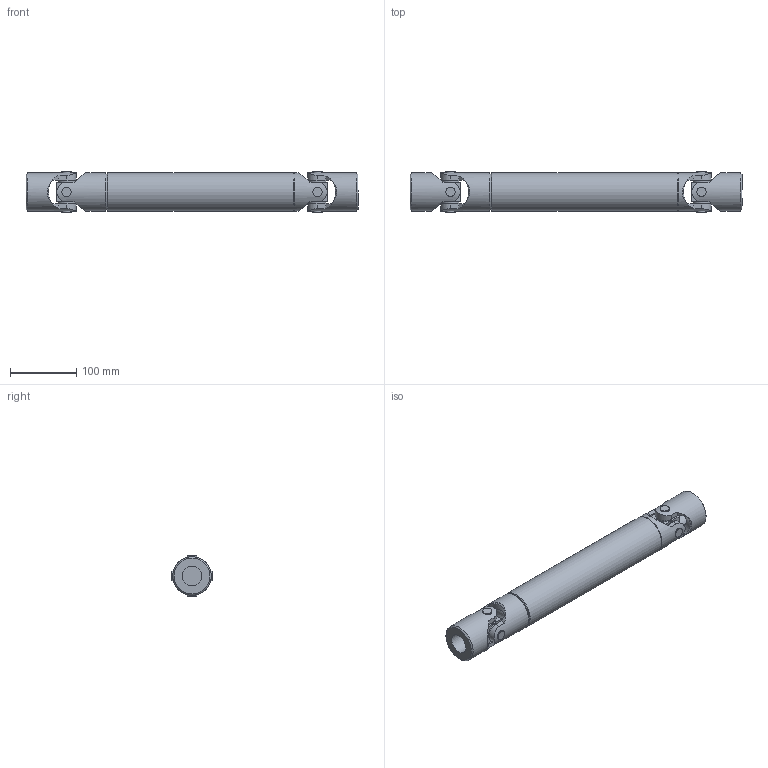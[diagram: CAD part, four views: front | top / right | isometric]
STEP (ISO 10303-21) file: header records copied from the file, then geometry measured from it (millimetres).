
FILE_DESCRIPTION(/* description */ (''),/* implementation_level */ '2;1');
FILE_NAME(/* name */ '\\SRV2016\societa\Stefano\Disegni 3D\0Catalogo 3D\15Trasmissioni speciali XA\Ø58_6XA\6XA.stp',/* time_stamp */ '2023-05-17T08:23:44+02:00',/* author */ ('acquisti'),/* organization */ (''),/* preprocessor_version */ 'ST-DEVELOPER v15.6',/* originating_system */ 'Autodesk Inventor 2015',/* authorisation */ '');
FILE_SCHEMA (('AUTOMOTIVE_DESIGN { 1 0 10303 214 3 1 1 }'));
Length unit declared in the file: millimetre
Products named in the file (5): 6X LAI; 6X LCI; 6X SFE; 6X MOS; Ø58_6XA
Assembly tree (6 placements, depth 2):
  Ø58_6XA
    6X LAI
    6X LCI
    6X SFE  x2
    6X MOS  x2
Bounding box: 500 x 60.5 x 60.5 mm (x, y, z)
Volume: 942725.1 mm3; surface area: 214239.9 mm2
Topology: 6 solids, 6 shells, 198 faces, 519 edges, 349 vertices
Faces by surface type: plane 100, cylinder 69, cone 25, torus 4
Full cylindrical faces by diameter (mm): 14 x8, 26 x8, 30 x3, 32 x4, 49 x1, 58 x4, 58.5 x1
Entity records: 5461 total; most frequent: CARTESIAN_POINT 1597, DIRECTION 780, ORIENTED_EDGE 766, EDGE_CURVE 383, AXIS2_PLACEMENT_3D 302, VERTEX_POINT 273, EDGE_LOOP 204, LINE 176
